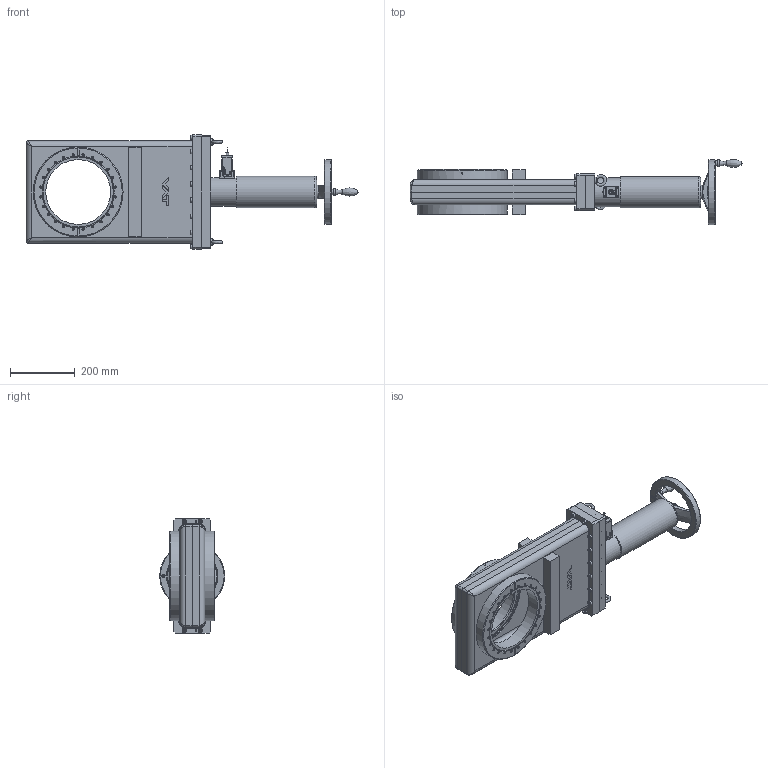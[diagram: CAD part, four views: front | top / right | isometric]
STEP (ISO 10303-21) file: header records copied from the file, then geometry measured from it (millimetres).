
FILE_DESCRIPTION(/* description */ (''),/* implementation_level */ '2;1');
FILE_NAME(/* name */ '1320732361_203.stp',/* time_stamp */ '2019-03-14T11:56:17+01:00',/* author */ (''),/* organization */ (''),/* preprocessor_version */ 'ST-DEVELOPER v16',/* originating_system */ 'SIEMENS PLM Software NX 11.0',/* authorisation */ '');
FILE_SCHEMA (('AP203_CONFIGURATION_CONTROLLED_3D_DESIGN_OF_MECHANICAL_PARTS_AND_ASSEMBLIES_MIM_LF { 1 0 10303 403 2 1 2}'));
Length unit declared in the file: millimetre
Products named in the file (24): 209513.2; n-6270-155.1; 209621.1; 214092; n-6013-437; 241830; 241827; 241831; 241826; 74803-01.2; n-6160-406; N-6024-532.1; n-6033-403; 85356-01; 99053-01_1; 99051-01_1; N-6001-492.1; 99052-01_4.3; 99052-01_5.4; 204301.1; 85373-01.3; 90495-01.5; N-5019-819.1; 971745
Assembly tree (50 placements, depth 2):
  971745
    N-5019-819.1  x16
    90495-01.5
    85373-01.3
    204301.1
    99052-01_5.4
    99052-01_4.3
    N-6001-492.1
    99051-01_1  x2
    99053-01_1
    85356-01  x2
    n-6033-403  x2
    N-6024-532.1  x4
    n-6160-406  x4
    74803-01.2
    241826
    241831
    241827
    241830
    n-6013-437  x4
    214092
    209621.1
    n-6270-155.1
    209513.2
Bounding box: 1024.9 x 201.42 x 352 mm (x, y, z)
Volume: 6859262.5 mm3; surface area: 1676995.9 mm2
Topology: 84 solids, 84 shells, 1457 faces, 3486 edges, 2278 vertices
Faces by surface type: plane 844, cylinder 387, cone 152, extrusion 46, bspline 16, torus 7, sphere 5
Full cylindrical faces by diameter (mm): 0.25 x6, 2.5 x7, 3 x8, 3.125 x2, 3.3 x4, 3.4 x8, 3.6 x2, 4.8 x2, 5.006 x2, 5.6 x6, 6 x4, 6.466 x16, 6.647 x4, 6.66 x17, 6.7 x17, 6.8 x50, 7.7 x1, 8 x56, 9 x18, 10 x3, 10.106 x2, 12 x2, 12.117 x1, 13 x16, 16 x1, 16.1 x1, 16.3 x1, 20 x2, 21 x1, 30 x1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
Entity records: 34872 total; most frequent: CARTESIAN_POINT 8628, DIRECTION 4302, ORIENTED_EDGE 4086, EDGE_CURVE 2043, AXIS2_PLACEMENT_3D 1625, VERTEX_POINT 1576, EDGE_LOOP 1502, VECTOR 1052
